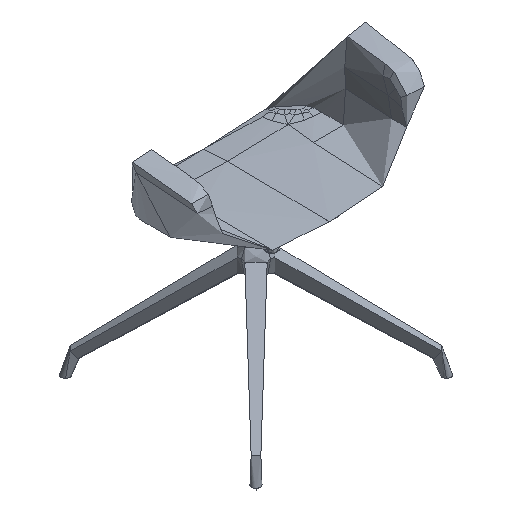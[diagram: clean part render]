
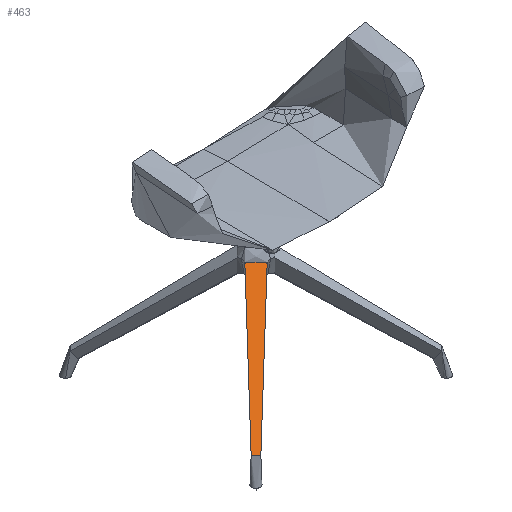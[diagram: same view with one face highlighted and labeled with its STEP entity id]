
A CAD part, isometric view. The second image highlights one B-rep face of the part: STEP entity #463.
In plain terms, the highlighted free-form (B-spline) face has degree [2, 1] with [3, 2] control points.
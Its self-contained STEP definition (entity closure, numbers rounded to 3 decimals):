
#107=(
BOUNDED_CURVE()
B_SPLINE_CURVE(2,(#30539,#30540,#30541),.UNSPECIFIED.,.F.,.F.)
B_SPLINE_CURVE_WITH_KNOTS((3,3),(91.538,481.362),
 .UNSPECIFIED.)
CURVE()
GEOMETRIC_REPRESENTATION_ITEM()
RATIONAL_B_SPLINE_CURVE((1.,0.861,1.))
REPRESENTATION_ITEM('')
);
#186=(
BOUNDED_SURFACE()
B_SPLINE_SURFACE(2,1,((#26154,#26155),(#26156,#26157),(#26158,#26159)),
 .UNSPECIFIED.,.F.,.F.,.F.)
B_SPLINE_SURFACE_WITH_KNOTS((3,3),(2,2),(0.,572.9),(66.217,
469.419),.UNSPECIFIED.)
GEOMETRIC_REPRESENTATION_ITEM()
RATIONAL_B_SPLINE_SURFACE(((1.,1.),(0.707,0.707),
(1.,1.)))
REPRESENTATION_ITEM('')
SURFACE()
);
#463=ADVANCED_FACE('',(#697),#186,.T.);
#697=FACE_OUTER_BOUND('',#931,.T.);
#931=EDGE_LOOP('',(#1878,#1879,#1880,#1881));
#1878=ORIENTED_EDGE('',*,*,#2575,.F.);
#1879=ORIENTED_EDGE('',*,*,#2561,.T.);
#1880=ORIENTED_EDGE('',*,*,#2573,.T.);
#1881=ORIENTED_EDGE('',*,*,#2571,.T.);
#2561=EDGE_CURVE('',#3392,#3393,#3049,.T.);
#2571=EDGE_CURVE('',#3399,#3398,#107,.T.);
#2573=EDGE_CURVE('',#3393,#3399,#3054,.T.);
#2575=EDGE_CURVE('',#3392,#3398,#3056,.T.);
#3049=B_SPLINE_CURVE_WITH_KNOTS('',3,(#30472,#30473,#30474,#30475,#30476,
#30477,#30478,#30479,#30480,#30481,#30482,#30483,#30484,#30485,#30486,#30487,
#30488,#30489,#30490,#30491,#30492,#30493,#30494,#30495,#30496),
 .UNSPECIFIED.,.F.,.F.,(4,1,1,1,2,2,2,1,1,1,2,2,2,1,1,1,4),(-52.559,
-45.022,-42.939,-40.857,-38.774,
-34.61,-30.445,-28.362,-26.28,
-24.197,-22.115,-17.95,-13.785,
-11.702,-9.62,-7.537,0.),.UNSPECIFIED.);
#3054=B_SPLINE_CURVE_WITH_KNOTS('',3,(#30545,#30546,#30547,#30548,#30549,
#30550,#30551,#30552,#30553,#30554,#30555,#30556,#30557,#30558,#30559,#30560,
#30561,#30562,#30563,#30564,#30565,#30566,#30567,#30568),.UNSPECIFIED.,
 .F.,.F.,(4,2,2,2,2,2,2,2,2,2,2,4),(-374.879,-281.16,
-187.44,-140.58,-93.72,-70.29,
-46.86,-35.145,-23.43,-17.572,
-11.715,-10.019),.UNSPECIFIED.);
#3056=B_SPLINE_CURVE_WITH_KNOTS('',3,(#30577,#30578,#30579,#30580,#30581,
#30582,#30583,#30584,#30585,#30586,#30587,#30588,#30589,#30590,#30591,#30592,
#30593,#30594,#30595,#30596,#30597,#30598,#30599,#30600),.UNSPECIFIED.,
 .F.,.F.,(4,2,2,2,2,2,2,2,2,2,2,4),(-374.879,-281.16,
-187.44,-140.58,-93.72,-70.29,
-46.86,-35.145,-23.43,-17.572,
-11.715,-10.019),.UNSPECIFIED.);
#3392=VERTEX_POINT('',#29948);
#3393=VERTEX_POINT('',#29949);
#3398=VERTEX_POINT('',#29954);
#3399=VERTEX_POINT('',#29955);
#26154=CARTESIAN_POINT('',(0.,-40.,281.011));
#26155=CARTESIAN_POINT('',(0.,-364.719,45.681));
#26156=CARTESIAN_POINT('',(-40.,-40.,281.011));
#26157=CARTESIAN_POINT('',(-364.719,-364.719,45.681));
#26158=CARTESIAN_POINT('',(-40.,0.,281.011));
#26159=CARTESIAN_POINT('',(-364.719,0.,45.681));
#29948=CARTESIAN_POINT('',(-245.446,-232.965,64.753));
#29949=CARTESIAN_POINT('',(-232.965,-245.446,64.753));
#29954=CARTESIAN_POINT('',(-38.747,-9.934,281.011));
#29955=CARTESIAN_POINT('',(-9.934,-38.747,281.011));
#30472=CARTESIAN_POINT('',(-245.446,-232.965,64.753));
#30473=CARTESIAN_POINT('',(-247.059,-234.512,63.133));
#30474=CARTESIAN_POINT('',(-249.072,-236.465,61.101));
#30475=CARTESIAN_POINT('',(-251.65,-238.893,58.534));
#30476=CARTESIAN_POINT('',(-252.692,-240.045,57.412));
#30477=CARTESIAN_POINT('',(-253.261,-241.012,56.63));
#30478=CARTESIAN_POINT('',(-253.971,-242.507,55.51));
#30479=CARTESIAN_POINT('',(-254.274,-243.622,54.794));
#30480=CARTESIAN_POINT('',(-254.423,-245.974,53.534));
#30481=CARTESIAN_POINT('',(-254.267,-247.217,52.989));
#30482=CARTESIAN_POINT('',(-253.614,-249.025,52.411));
#30483=CARTESIAN_POINT('',(-253.041,-250.206,52.106));
#30484=CARTESIAN_POINT('',(-251.783,-251.783,51.947));
#30485=CARTESIAN_POINT('',(-250.206,-253.041,52.106));
#30486=CARTESIAN_POINT('',(-249.025,-253.614,52.411));
#30487=CARTESIAN_POINT('',(-247.217,-254.267,52.989));
#30488=CARTESIAN_POINT('',(-245.974,-254.423,53.534));
#30489=CARTESIAN_POINT('',(-243.622,-254.274,54.794));
#30490=CARTESIAN_POINT('',(-242.507,-253.971,55.51));
#30491=CARTESIAN_POINT('',(-241.012,-253.261,56.63));
#30492=CARTESIAN_POINT('',(-240.045,-252.692,57.412));
#30493=CARTESIAN_POINT('',(-238.893,-251.65,58.534));
#30494=CARTESIAN_POINT('',(-236.465,-249.072,61.101));
#30495=CARTESIAN_POINT('',(-234.512,-247.059,63.133));
#30496=CARTESIAN_POINT('',(-232.965,-245.446,64.753));
#30539=CARTESIAN_POINT('',(-9.934,-38.747,281.011));
#30540=CARTESIAN_POINT('',(-32.867,-32.867,281.011));
#30541=CARTESIAN_POINT('',(-38.747,-9.934,281.011));
#30545=CARTESIAN_POINT('',(-232.965,-245.446,64.753));
#30546=CARTESIAN_POINT('',(-214.961,-226.73,83.573));
#30547=CARTESIAN_POINT('',(-196.78,-208.188,102.392));
#30548=CARTESIAN_POINT('',(-160.124,-171.381,140.021));
#30549=CARTESIAN_POINT('',(-141.688,-153.084,158.834));
#30550=CARTESIAN_POINT('',(-113.878,-125.781,187.036));
#30551=CARTESIAN_POINT('',(-104.581,-116.704,196.434));
#30552=CARTESIAN_POINT('',(-85.934,-98.593,215.218));
#30553=CARTESIAN_POINT('',(-76.59,-89.556,224.606));
#30554=CARTESIAN_POINT('',(-62.499,-76.049,238.664));
#30555=CARTESIAN_POINT('',(-57.81,-71.537,243.348));
#30556=CARTESIAN_POINT('',(-48.275,-62.65,252.684));
#30557=CARTESIAN_POINT('',(-43.434,-58.266,257.347));
#30558=CARTESIAN_POINT('',(-35.727,-52.103,264.221));
#30559=CARTESIAN_POINT('',(-33.076,-50.122,266.49));
#30560=CARTESIAN_POINT('',(-27.524,-46.4,270.915));
#30561=CARTESIAN_POINT('',(-24.621,-44.655,273.076));
#30562=CARTESIAN_POINT('',(-19.972,-42.321,276.093));
#30563=CARTESIAN_POINT('',(-18.372,-41.594,277.062));
#30564=CARTESIAN_POINT('',(-15.046,-40.269,278.863));
#30565=CARTESIAN_POINT('',(-13.317,-39.67,279.696));
#30566=CARTESIAN_POINT('',(-10.997,-39.016,280.626));
#30567=CARTESIAN_POINT('',(-10.468,-38.877,280.823));
#30568=CARTESIAN_POINT('',(-9.934,-38.747,281.011));
#30577=CARTESIAN_POINT('',(-245.446,-232.965,64.753));
#30578=CARTESIAN_POINT('',(-226.73,-214.961,83.573));
#30579=CARTESIAN_POINT('',(-208.188,-196.78,102.392));
#30580=CARTESIAN_POINT('',(-171.381,-160.124,140.021));
#30581=CARTESIAN_POINT('',(-153.084,-141.688,158.834));
#30582=CARTESIAN_POINT('',(-125.781,-113.878,187.036));
#30583=CARTESIAN_POINT('',(-116.704,-104.581,196.434));
#30584=CARTESIAN_POINT('',(-98.593,-85.934,215.218));
#30585=CARTESIAN_POINT('',(-89.556,-76.59,224.606));
#30586=CARTESIAN_POINT('',(-76.049,-62.499,238.664));
#30587=CARTESIAN_POINT('',(-71.537,-57.81,243.348));
#30588=CARTESIAN_POINT('',(-62.65,-48.275,252.684));
#30589=CARTESIAN_POINT('',(-58.266,-43.434,257.347));
#30590=CARTESIAN_POINT('',(-52.103,-35.727,264.221));
#30591=CARTESIAN_POINT('',(-50.122,-33.076,266.49));
#30592=CARTESIAN_POINT('',(-46.4,-27.524,270.915));
#30593=CARTESIAN_POINT('',(-44.655,-24.621,273.076));
#30594=CARTESIAN_POINT('',(-42.321,-19.972,276.093));
#30595=CARTESIAN_POINT('',(-41.594,-18.372,277.062));
#30596=CARTESIAN_POINT('',(-40.269,-15.046,278.863));
#30597=CARTESIAN_POINT('',(-39.67,-13.317,279.696));
#30598=CARTESIAN_POINT('',(-39.016,-10.997,280.626));
#30599=CARTESIAN_POINT('',(-38.877,-10.468,280.823));
#30600=CARTESIAN_POINT('',(-38.747,-9.934,281.011));
